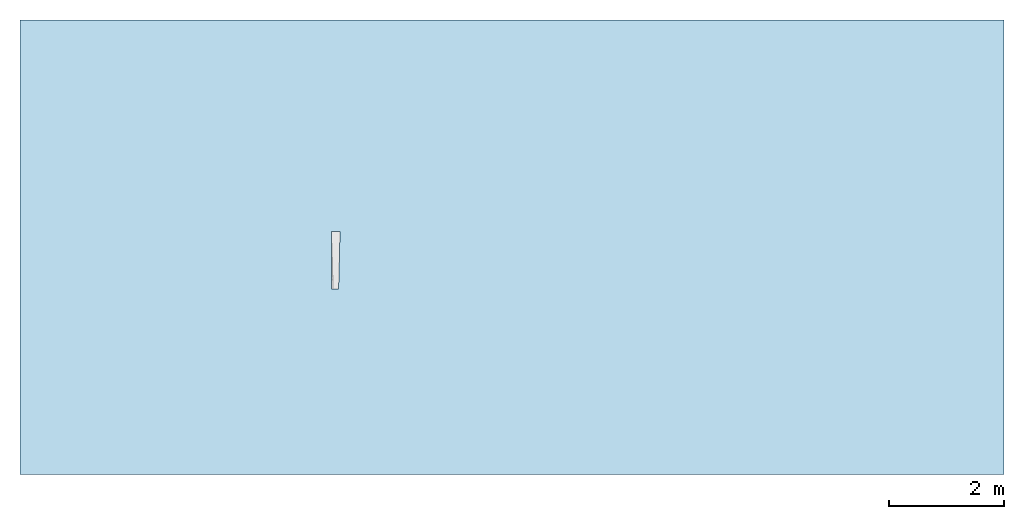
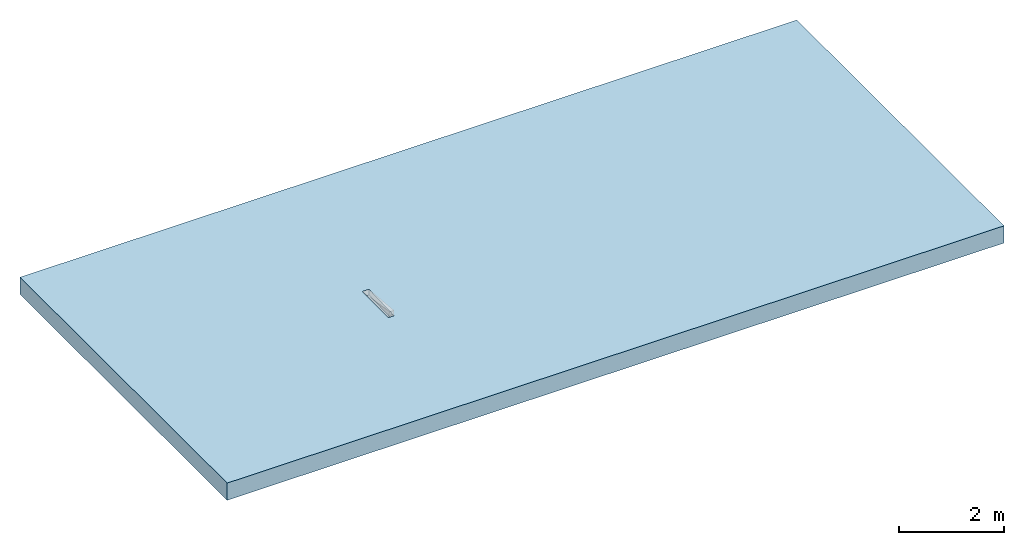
# One storey, incomplete: 1 slab, 3 openings.
"""IFC2X3 building model written with IfcOpenShell, lengths in millimetres."""

from ifc_helpers import new_model, entity, si_unit, converted_unit, direction, frame, frame_2d, origin, origin_2d_with_axis, place, context, subcontext, project, spatial, polyline, rectangle, outline, extrude, material, layer, layer_set, layer_usage, element, save


model = new_model("IFC2X3")

# Units and contexts
model_context = context("Model", 3, precision=1e-06, world=origin(), true_north=direction((2.0, 6.12303176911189e-17, 1.0)))
context_of_model = context(None, 3, precision=1e-06, world=origin(), true_north=direction((2.0, 6.12303176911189e-17, 1.0)))
body_context = subcontext(model_context, "Body", "Model", "MODEL_VIEW")
ifc_project = project(units=[si_unit("LENGTHUNIT", "METRE", prefix="MILLI"), si_unit("AREAUNIT", "SQUARE_METRE", prefix="MILLI"), si_unit("VOLUMEUNIT", "CUBIC_METRE", prefix="MILLI"), converted_unit("PLANEANGLEUNIT", "DEGREE", entity("IfcRatioMeasure", 0.0174532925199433), si_unit("PLANEANGLEUNIT", "RADIAN"), dimensions=[0, 0, 0, 0, 0, 0, 0]), si_unit("TIMEUNIT", "SECOND")], contexts=[model_context, context_of_model])

# Site, building, storey
site_placement = place(None, origin())
site = spatial("IfcSite", under=ifc_project, at=site_placement, Name="Default", CompositionType="ELEMENT")
building_placement = place(site_placement, origin())
building = spatial("IfcBuilding", under=site, at=building_placement, CompositionType="ELEMENT")
storey_placement = place(building_placement, origin())
storey = spatial("IfcBuildingStorey", under=building, at=storey_placement, Name="Level 1", CompositionType="ELEMENT", Elevation=0.0)

# Slab, openings
ifc_material = material(Name="Plant")
ifc_layer = layer(ifc_material, 400.0)
ifc_layer_set = layer_set([ifc_layer], Name="Floor:Generic Floor - 400mm")
ifc_layer_usage = layer_usage(ifc_layer_set, "AXIS3", "POSITIVE", 0.0)
slab_placement = place(storey_placement, origin())
slab = element("IfcSlab", 1, at=slab_placement, inside=storey, material=ifc_layer_usage, Name="Floor:Generic Floor - 400mm", ObjectType="Floor:Generic Floor - 400mm", PredefinedType="FLOOR", context=body_context, shape_type="SweptSolid", body=[
    extrude(rectangle(XDim=7900.0, YDim=17100.0, at=frame_2d((0.0, 0.0), x_axis=(0.0, -1.0))), frame((-8097.86261836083, 1059.07636553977, 0.0), z_axis=(0.0, 0.0, -1.0), x_axis=(-1.0, 0.0, 0.0)), (0.0, 0.0, 1.0), 400.0),
])
opening_1_placement = place(slab_placement, origin())
element("IfcOpeningElement", 2, at=opening_1_placement, cuts=slab, ObjectType="Recess", context=body_context, shape_type="SweptSolid", body=[
    extrude(rectangle(XDim=280.350941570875, YDim=25.5515234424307, at=origin_2d_with_axis()), frame((-11236.6900252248, 586.058372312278, -1875.0), z_axis=(0.0, 0.0, 1.0), x_axis=(0.0, -1.0, 0.0)), (0.0, 0.0, 1.0), 255.0),
])
opening_2_placement = place(slab_placement, origin())
element("IfcOpeningElement", 3, at=opening_2_placement, cuts=slab, ObjectType="Recess", context=body_context, shape_type="SweptSolid", body=[
    extrude(outline(polyline([(-500.0, -68.7499999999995), (500.0, -68.7499999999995), (500.0, 56.2500000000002), (-500.0, 81.2500000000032), (-500.0, -68.7499999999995)])), frame((-11167.6642635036, 835.882901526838, -130.0), z_axis=(0.0, 0.0, 1.0), x_axis=(0.0, -1.0, 0.0)), (0.0, 0.0, 1.0), 130.0),
])
opening_3_placement = place(slab_placement, origin())
element("IfcOpeningElement", 4, at=opening_3_placement, cuts=slab, ObjectType="Recess", context=body_context, shape_type="SweptSolid", body=[
    extrude(rectangle(XDim=149.999999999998, YDim=1000.0, at=frame_2d((-10.0, -100.0), x_axis=(1.0, 0.0))), frame((-11171.4142635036, 735.882901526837, -2005.0), z_axis=(0.0, 0.0, 1.0), x_axis=(-1.0, 0.0, 0.0)), (0.0, 0.0, 1.0), 4.99999999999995),
])

save(model, "model.ifc")
